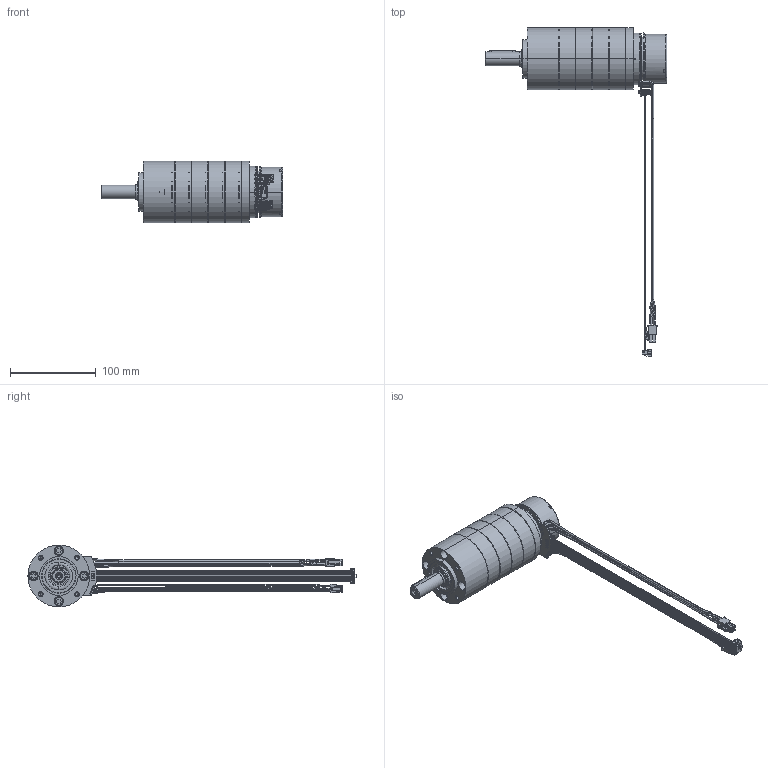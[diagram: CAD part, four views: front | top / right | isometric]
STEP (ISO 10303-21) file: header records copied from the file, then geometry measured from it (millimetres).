
FILE_DESCRIPTION (( 'STEP AP214' ), '1' );
FILE_NAME ('EC60Flat_PM72_4st.STEP', '2020-06-22T12:53:04', ( '' ), ( '' ), 'SwSTEP 2.0', 'SolidWorks 2019', '' );
FILE_SCHEMA (( 'AUTOMOTIVE_DESIGN' ));
Length unit declared in the file: millimetre
Products named in the file (4): 6873599_adapt_ec60_pm72_Part; PM72-4etages; EC60fl. 150W cable open + MILE; EC60Flat_PM72_4st
Assembly tree (3 placements, depth 2):
  EC60Flat_PM72_4st
    EC60fl. 150W cable open + MILE
    PM72-4etages
    6873599_adapt_ec60_pm72_Part
Bounding box: 212 x 382.24 x 72 mm (x, y, z)
Volume: 40823.4 mm3; surface area: 207157.4 mm2
Topology: 1 solids, 67 shells, 3244 faces, 8628 edges, 5585 vertices
Faces by surface type: plane 1748, cylinder 1186, torus 209, cone 101
Entity records: 140460 total; most frequent: CARTESIAN_POINT 21551, DIRECTION 17585, ORIENTED_EDGE 17168, EDGE_CURVE 8610, AXIS2_PLACEMENT_3D 5940, LINE 5705, VECTOR 5705, VERTEX_POINT 5585
